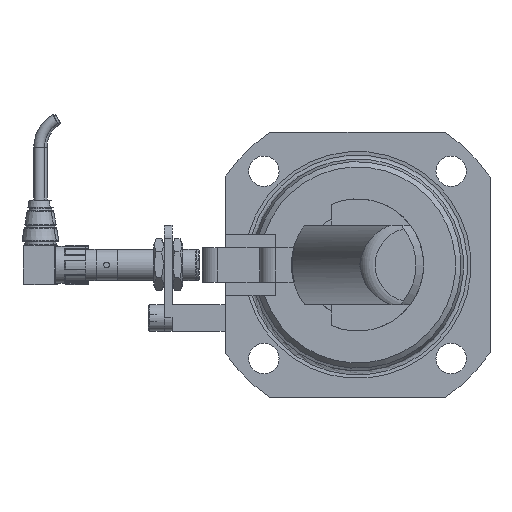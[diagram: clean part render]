
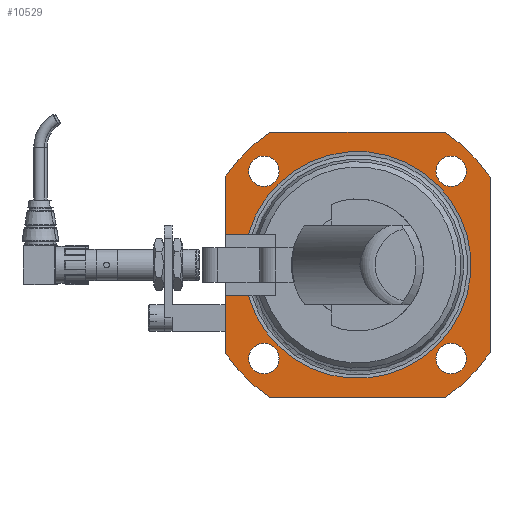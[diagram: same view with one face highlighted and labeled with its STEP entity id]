
A CAD part, left-side view. The second image highlights one B-rep face of the part: STEP entity #10529.
In plain terms, the highlighted planar face has unit normal (-1, 0, 0).
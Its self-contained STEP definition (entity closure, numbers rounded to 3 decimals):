
#565=FACE_BOUND('',#1474,.T.);
#566=FACE_BOUND('',#1475,.T.);
#567=FACE_BOUND('',#1476,.T.);
#568=FACE_BOUND('',#1477,.T.);
#876=FACE_OUTER_BOUND('',#1473,.T.);
#1473=EDGE_LOOP('',(#7858,#7859,#7860,#7861,#7862,#7863,#7864,#7865,#7866,
#7867,#7868,#7869));
#1474=EDGE_LOOP('',(#7870,#7871));
#1475=EDGE_LOOP('',(#7872,#7873));
#1476=EDGE_LOOP('',(#7874,#7875));
#1477=EDGE_LOOP('',(#7876,#7877));
#2107=LINE('',#17400,#2777);
#2109=LINE('',#17411,#2779);
#2111=LINE('',#17422,#2781);
#2113=LINE('',#17435,#2783);
#2114=LINE('',#17436,#2784);
#2115=LINE('',#17438,#2785);
#2116=LINE('',#17440,#2786);
#2777=VECTOR('',#13601,10.);
#2779=VECTOR('',#13605,10.);
#2781=VECTOR('',#13609,10.);
#2783=VECTOR('',#13613,10.);
#2784=VECTOR('',#13614,10.);
#2785=VECTOR('',#13615,10.);
#2786=VECTOR('',#13616,10.);
#3467=CIRCLE('',#11422,60.);
#3483=CIRCLE('',#11445,60.);
#3486=CIRCLE('',#11449,60.);
#3487=CIRCLE('',#11451,60.);
#3489=CIRCLE('',#11457,42.82);
#3490=CIRCLE('',#11458,5.75);
#3491=CIRCLE('',#11459,5.75);
#3492=CIRCLE('',#11460,5.75);
#3493=CIRCLE('',#11461,5.75);
#3494=CIRCLE('',#11462,5.75);
#3495=CIRCLE('',#11463,5.75);
#3496=CIRCLE('',#11464,5.75);
#3497=CIRCLE('',#11465,5.75);
#4318=VERTEX_POINT('',#17316);
#4321=VERTEX_POINT('',#17321);
#4343=VERTEX_POINT('',#17374);
#4344=VERTEX_POINT('',#17376);
#4346=VERTEX_POINT('',#17382);
#4349=VERTEX_POINT('',#17387);
#4351=VERTEX_POINT('',#17392);
#4352=VERTEX_POINT('',#17394);
#4360=VERTEX_POINT('',#17433);
#4361=VERTEX_POINT('',#17434);
#4362=VERTEX_POINT('',#17437);
#4363=VERTEX_POINT('',#17439);
#4364=VERTEX_POINT('',#17442);
#4365=VERTEX_POINT('',#17443);
#4366=VERTEX_POINT('',#17446);
#4367=VERTEX_POINT('',#17447);
#4368=VERTEX_POINT('',#17450);
#4369=VERTEX_POINT('',#17451);
#4370=VERTEX_POINT('',#17454);
#4371=VERTEX_POINT('',#17455);
#5583=EDGE_CURVE('',#4321,#4318,#3467,.T.);
#5607=EDGE_CURVE('',#4343,#4344,#3483,.T.);
#5613=EDGE_CURVE('',#4349,#4346,#3486,.T.);
#5615=EDGE_CURVE('',#4351,#4352,#3487,.T.);
#5618=EDGE_CURVE('',#4349,#4352,#2107,.T.);
#5622=EDGE_CURVE('',#4321,#4346,#2109,.T.);
#5626=EDGE_CURVE('',#4351,#4344,#2111,.T.);
#5630=EDGE_CURVE('',#4360,#4361,#2113,.T.);
#5631=EDGE_CURVE('',#4361,#4318,#2114,.T.);
#5632=EDGE_CURVE('',#4343,#4362,#2115,.T.);
#5633=EDGE_CURVE('',#4362,#4363,#2116,.T.);
#5634=EDGE_CURVE('',#4363,#4360,#3489,.T.);
#5635=EDGE_CURVE('',#4364,#4365,#3490,.T.);
#5636=EDGE_CURVE('',#4365,#4364,#3491,.T.);
#5637=EDGE_CURVE('',#4366,#4367,#3492,.T.);
#5638=EDGE_CURVE('',#4367,#4366,#3493,.T.);
#5639=EDGE_CURVE('',#4368,#4369,#3494,.T.);
#5640=EDGE_CURVE('',#4369,#4368,#3495,.T.);
#5641=EDGE_CURVE('',#4370,#4371,#3496,.T.);
#5642=EDGE_CURVE('',#4371,#4370,#3497,.T.);
#7858=ORIENTED_EDGE('',*,*,#5630,.T.);
#7859=ORIENTED_EDGE('',*,*,#5631,.T.);
#7860=ORIENTED_EDGE('',*,*,#5583,.F.);
#7861=ORIENTED_EDGE('',*,*,#5622,.T.);
#7862=ORIENTED_EDGE('',*,*,#5613,.F.);
#7863=ORIENTED_EDGE('',*,*,#5618,.T.);
#7864=ORIENTED_EDGE('',*,*,#5615,.F.);
#7865=ORIENTED_EDGE('',*,*,#5626,.T.);
#7866=ORIENTED_EDGE('',*,*,#5607,.F.);
#7867=ORIENTED_EDGE('',*,*,#5632,.T.);
#7868=ORIENTED_EDGE('',*,*,#5633,.T.);
#7869=ORIENTED_EDGE('',*,*,#5634,.T.);
#7870=ORIENTED_EDGE('',*,*,#5635,.T.);
#7871=ORIENTED_EDGE('',*,*,#5636,.T.);
#7872=ORIENTED_EDGE('',*,*,#5637,.T.);
#7873=ORIENTED_EDGE('',*,*,#5638,.T.);
#7874=ORIENTED_EDGE('',*,*,#5639,.T.);
#7875=ORIENTED_EDGE('',*,*,#5640,.T.);
#7876=ORIENTED_EDGE('',*,*,#5641,.T.);
#7877=ORIENTED_EDGE('',*,*,#5642,.T.);
#9583=PLANE('',#11456);
#10529=ADVANCED_FACE('',(#876,#565,#566,#567,#568),#9583,.T.);
#11422=AXIS2_PLACEMENT_3D('',#17323,#13524,#13525);
#11445=AXIS2_PLACEMENT_3D('',#17377,#13578,#13579);
#11449=AXIS2_PLACEMENT_3D('',#17389,#13589,#13590);
#11451=AXIS2_PLACEMENT_3D('',#17395,#13594,#13595);
#11456=AXIS2_PLACEMENT_3D('',#17432,#13611,#13612);
#11457=AXIS2_PLACEMENT_3D('',#17441,#13617,#13618);
#11458=AXIS2_PLACEMENT_3D('',#17444,#13619,#13620);
#11459=AXIS2_PLACEMENT_3D('',#17445,#13621,#13622);
#11460=AXIS2_PLACEMENT_3D('',#17448,#13623,#13624);
#11461=AXIS2_PLACEMENT_3D('',#17449,#13625,#13626);
#11462=AXIS2_PLACEMENT_3D('',#17452,#13627,#13628);
#11463=AXIS2_PLACEMENT_3D('',#17453,#13629,#13630);
#11464=AXIS2_PLACEMENT_3D('',#17456,#13631,#13632);
#11465=AXIS2_PLACEMENT_3D('',#17457,#13633,#13634);
#13524=DIRECTION('center_axis',(1.,0.,0.));
#13525=DIRECTION('ref_axis',(0.,1.,0.));
#13578=DIRECTION('center_axis',(1.,0.,0.));
#13579=DIRECTION('ref_axis',(0.,1.,0.));
#13589=DIRECTION('center_axis',(1.,0.,0.));
#13590=DIRECTION('ref_axis',(0.,1.,0.));
#13594=DIRECTION('center_axis',(1.,0.,0.));
#13595=DIRECTION('ref_axis',(0.,1.,0.));
#13601=DIRECTION('',(0.,0.,1.));
#13605=DIRECTION('',(0.,-1.,0.));
#13609=DIRECTION('',(0.,1.,0.));
#13611=DIRECTION('center_axis',(-1.,0.,0.));
#13612=DIRECTION('ref_axis',(0.,0.,1.));
#13613=DIRECTION('',(0.,1.,0.));
#13614=DIRECTION('',(0.,0.,-1.));
#13615=DIRECTION('',(0.,0.,-1.));
#13616=DIRECTION('',(0.,-1.,0.));
#13617=DIRECTION('center_axis',(1.,0.,0.));
#13618=DIRECTION('ref_axis',(0.,1.,0.));
#13619=DIRECTION('center_axis',(1.,0.,0.));
#13620=DIRECTION('ref_axis',(0.,1.,0.));
#13621=DIRECTION('center_axis',(1.,0.,0.));
#13622=DIRECTION('ref_axis',(0.,1.,0.));
#13623=DIRECTION('center_axis',(1.,0.,0.));
#13624=DIRECTION('ref_axis',(0.,0.,
-1.));
#13625=DIRECTION('center_axis',(1.,0.,0.));
#13626=DIRECTION('ref_axis',(0.,0.,
-1.));
#13627=DIRECTION('center_axis',(1.,0.,0.));
#13628=DIRECTION('ref_axis',(0.,-1.,0.));
#13629=DIRECTION('center_axis',(1.,0.,0.));
#13630=DIRECTION('ref_axis',(0.,-1.,0.));
#13631=DIRECTION('center_axis',(1.,0.,0.));
#13632=DIRECTION('ref_axis',(0.,0.,1.));
#13633=DIRECTION('center_axis',(1.,0.,0.));
#13634=DIRECTION('ref_axis',(0.,0.,1.));
#17316=CARTESIAN_POINT('',(-154.943,290.455,-65.449));
#17321=CARTESIAN_POINT('',(-154.943,273.621,-82.283));
#17323=CARTESIAN_POINT('Origin',(-154.943,240.455,-32.283));
#17374=CARTESIAN_POINT('',(-154.943,290.455,0.883));
#17376=CARTESIAN_POINT('',(-154.943,273.621,17.717));
#17377=CARTESIAN_POINT('Origin',(-154.943,240.455,-32.283));
#17382=CARTESIAN_POINT('',(-154.943,207.289,-82.283));
#17387=CARTESIAN_POINT('',(-154.943,190.455,-65.449));
#17389=CARTESIAN_POINT('Origin',(-154.943,240.455,-32.283));
#17392=CARTESIAN_POINT('',(-154.943,207.289,17.717));
#17394=CARTESIAN_POINT('',(-154.943,190.455,0.883));
#17395=CARTESIAN_POINT('Origin',(-154.943,240.455,-32.283));
#17400=CARTESIAN_POINT('',(-154.943,190.455,-15.7));
#17411=CARTESIAN_POINT('',(-154.943,249.577,-82.283));
#17422=CARTESIAN_POINT('',(-154.943,282.743,17.717));
#17432=CARTESIAN_POINT('Origin',(-154.943,291.865,-32.283));
#17433=CARTESIAN_POINT('',(-154.943,281.702,-43.783));
#17434=CARTESIAN_POINT('',(-154.943,290.455,-43.783));
#17435=CARTESIAN_POINT('',(-154.943,291.16,-43.783));
#17436=CARTESIAN_POINT('',(-154.943,290.455,-48.866));
#17437=CARTESIAN_POINT('',(-154.943,290.455,-20.783));
#17438=CARTESIAN_POINT('',(-154.943,290.455,-48.866));
#17439=CARTESIAN_POINT('',(-154.943,281.702,-20.783));
#17440=CARTESIAN_POINT('',(-154.943,291.16,-20.783));
#17441=CARTESIAN_POINT('Origin',(-154.943,240.455,-32.283));
#17442=CARTESIAN_POINT('',(-154.943,210.85,-67.639));
#17443=CARTESIAN_POINT('',(-154.943,199.35,-67.639));
#17444=CARTESIAN_POINT('Origin',(-154.943,205.1,-67.639));
#17445=CARTESIAN_POINT('Origin',(-154.943,205.1,-67.639));
#17446=CARTESIAN_POINT('',(-154.943,205.1,-2.678));
#17447=CARTESIAN_POINT('',(-154.943,205.1,8.822));
#17448=CARTESIAN_POINT('Origin',(-154.943,205.1,3.072));
#17449=CARTESIAN_POINT('Origin',(-154.943,205.1,3.072));
#17450=CARTESIAN_POINT('',(-154.943,270.06,3.072));
#17451=CARTESIAN_POINT('',(-154.943,281.56,3.072));
#17452=CARTESIAN_POINT('Origin',(-154.943,275.81,3.072));
#17453=CARTESIAN_POINT('Origin',(-154.943,275.81,3.072));
#17454=CARTESIAN_POINT('',(-154.943,275.81,-61.889));
#17455=CARTESIAN_POINT('',(-154.943,275.81,-73.389));
#17456=CARTESIAN_POINT('Origin',(-154.943,275.81,-67.639));
#17457=CARTESIAN_POINT('Origin',(-154.943,275.81,-67.639));
